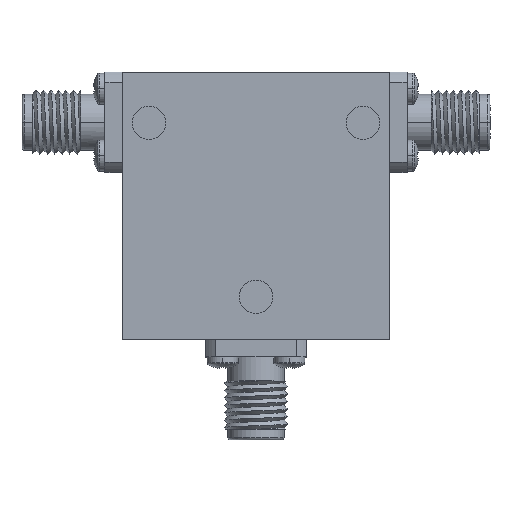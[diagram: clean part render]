
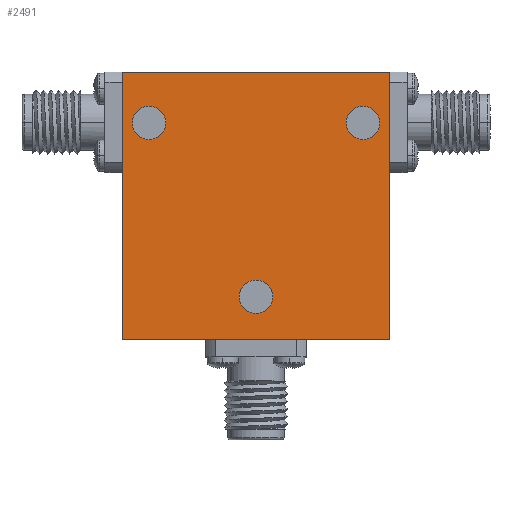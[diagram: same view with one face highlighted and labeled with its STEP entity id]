
A CAD part, top view. The second image highlights one B-rep face of the part: STEP entity #2491.
In plain terms, the highlighted planar face has unit normal (0, 0, 1) as drawn and (0, 0, -1) by its records, which use the part's own axes.
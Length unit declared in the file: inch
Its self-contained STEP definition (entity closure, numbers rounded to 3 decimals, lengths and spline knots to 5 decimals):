
#99 = VECTOR ( 'NONE', #3619, 39.37008 ) ;
#181 = CARTESIAN_POINT ( 'NONE',  ( 0., -0.34, -0.19 ) ) ;
#186 = EDGE_CURVE ( 'NONE', #1411, #1394, #2262, .T. ) ;
#208 = CARTESIAN_POINT ( 'NONE',  ( 0., 0., -0.19 ) ) ;
#249 = DIRECTION ( 'NONE',  ( 1., 0., 0. ) ) ;
#275 = LINE ( 'NONE', #3729, #3497 ) ;
#397 = DIRECTION ( 'NONE',  ( 0., 0., 1. ) ) ;
#425 = VERTEX_POINT ( 'NONE', #699 ) ;
#510 = ORIENTED_EDGE ( 'NONE', *, *, #2033, .T. ) ;
#515 = CIRCLE ( 'NONE', #1465, 0.0625 ) ;
#518 = ORIENTED_EDGE ( 'NONE', *, *, #1784, .F. ) ;
#528 = DIRECTION ( 'NONE',  ( 1., 0., 0. ) ) ;
#562 = LINE ( 'NONE', #1133, #3591 ) ;
#605 = CARTESIAN_POINT ( 'NONE',  ( -0.4625, 0.31, -0.19 ) ) ;
#612 = CARTESIAN_POINT ( 'NONE',  ( -0.4, 0.31, -0.19 ) ) ;
#661 = ORIENTED_EDGE ( 'NONE', *, *, #3164, .F. ) ;
#673 = EDGE_CURVE ( 'NONE', #2832, #3532, #1850, .T. ) ;
#699 = CARTESIAN_POINT ( 'NONE',  ( -0.5, 0.5, -0.19 ) ) ;
#804 = VERTEX_POINT ( 'NONE', #895 ) ;
#895 = CARTESIAN_POINT ( 'NONE',  ( 0.5, 0.5, -0.19 ) ) ;
#990 = VECTOR ( 'NONE', #528, 39.37008 ) ;
#1001 = CARTESIAN_POINT ( 'NONE',  ( 0., -0.34, -0.19 ) ) ;
#1004 = ORIENTED_EDGE ( 'NONE', *, *, #3047, .T. ) ;
#1028 = FACE_BOUND ( 'NONE', #1030, .T. ) ;
#1030 = EDGE_LOOP ( 'NONE', ( #1357, #1568 ) ) ;
#1083 = CARTESIAN_POINT ( 'NONE',  ( -0.4, 0.31, -0.19 ) ) ;
#1084 = EDGE_CURVE ( 'NONE', #3532, #2832, #3172, .T. ) ;
#1096 = PLANE ( 'NONE',  #3083 ) ;
#1116 = LINE ( 'NONE', #1925, #99 ) ;
#1133 = CARTESIAN_POINT ( 'NONE',  ( -0.5, 0.5, -0.19 ) ) ;
#1163 = EDGE_CURVE ( 'NONE', #2708, #804, #1116, .T. ) ;
#1171 = ORIENTED_EDGE ( 'NONE', *, *, #3043, .T. ) ;
#1181 = AXIS2_PLACEMENT_3D ( 'NONE', #181, #2259, #3121 ) ;
#1277 = EDGE_LOOP ( 'NONE', ( #3374, #1004 ) ) ;
#1299 = FACE_BOUND ( 'NONE', #1277, .T. ) ;
#1305 = LINE ( 'NONE', #1714, #990 ) ;
#1357 = ORIENTED_EDGE ( 'NONE', *, *, #1084, .T. ) ;
#1394 = VERTEX_POINT ( 'NONE', #2514 ) ;
#1401 = DIRECTION ( 'NONE',  ( -1., 0., 0. ) ) ;
#1411 = VERTEX_POINT ( 'NONE', #2806 ) ;
#1465 = AXIS2_PLACEMENT_3D ( 'NONE', #612, #1775, #3210 ) ;
#1534 = CARTESIAN_POINT ( 'NONE',  ( 0.3375, 0.31, -0.19 ) ) ;
#1557 = AXIS2_PLACEMENT_3D ( 'NONE', #1001, #397, #3668 ) ;
#1568 = ORIENTED_EDGE ( 'NONE', *, *, #673, .T. ) ;
#1709 = FACE_OUTER_BOUND ( 'NONE', #2951, .T. ) ;
#1714 = CARTESIAN_POINT ( 'NONE',  ( -0.5, -0.5, -0.19 ) ) ;
#1775 = DIRECTION ( 'NONE',  ( 0., 0., 1. ) ) ;
#1784 = EDGE_CURVE ( 'NONE', #2432, #2708, #1305, .T. ) ;
#1829 = DIRECTION ( 'NONE',  ( 1., 0., 0. ) ) ;
#1850 = CIRCLE ( 'NONE', #3088, 0.0625 ) ;
#1925 = CARTESIAN_POINT ( 'NONE',  ( 0.5, 0.5, -0.19 ) ) ;
#1985 = VERTEX_POINT ( 'NONE', #2584 ) ;
#2033 = EDGE_CURVE ( 'NONE', #3329, #1985, #515, .T. ) ;
#2170 = CARTESIAN_POINT ( 'NONE',  ( 0.4, 0.31, -0.19 ) ) ;
#2259 = DIRECTION ( 'NONE',  ( 0., 0., 1. ) ) ;
#2262 = CIRCLE ( 'NONE', #1557, 0.0625 ) ;
#2283 = CARTESIAN_POINT ( 'NONE',  ( 0.4, 0.31, -0.19 ) ) ;
#2393 = AXIS2_PLACEMENT_3D ( 'NONE', #2170, #2725, #1829 ) ;
#2416 = CIRCLE ( 'NONE', #1181, 0.0625 ) ;
#2432 = VERTEX_POINT ( 'NONE', #2773 ) ;
#2472 = ORIENTED_EDGE ( 'NONE', *, *, #1163, .F. ) ;
#2491 = ADVANCED_FACE ( 'NONE', ( #1028, #1299, #3170, #1709 ), #1096, .F. ) ;
#2514 = CARTESIAN_POINT ( 'NONE',  ( -0.0625, -0.34, -0.19 ) ) ;
#2542 = DIRECTION ( 'NONE',  ( 0., 0., 1. ) ) ;
#2584 = CARTESIAN_POINT ( 'NONE',  ( -0.3375, 0.31, -0.19 ) ) ;
#2604 = DIRECTION ( 'NONE',  ( 0., 0., 1. ) ) ;
#2708 = VERTEX_POINT ( 'NONE', #3205 ) ;
#2725 = DIRECTION ( 'NONE',  ( 0., 0., 1. ) ) ;
#2773 = CARTESIAN_POINT ( 'NONE',  ( -0.5, -0.5, -0.19 ) ) ;
#2806 = CARTESIAN_POINT ( 'NONE',  ( 0.0625, -0.34, -0.19 ) ) ;
#2832 = VERTEX_POINT ( 'NONE', #1534 ) ;
#2844 = ORIENTED_EDGE ( 'NONE', *, *, #3020, .F. ) ;
#2857 = DIRECTION ( 'NONE',  ( 0., 0., 1. ) ) ;
#2951 = EDGE_LOOP ( 'NONE', ( #2472, #518, #661, #2844 ) ) ;
#3020 = EDGE_CURVE ( 'NONE', #804, #425, #275, .T. ) ;
#3043 = EDGE_CURVE ( 'NONE', #1985, #3329, #3401, .T. ) ;
#3047 = EDGE_CURVE ( 'NONE', #1394, #1411, #2416, .T. ) ;
#3083 = AXIS2_PLACEMENT_3D ( 'NONE', #208, #2542, #3695 ) ;
#3088 = AXIS2_PLACEMENT_3D ( 'NONE', #2283, #2604, #249 ) ;
#3121 = DIRECTION ( 'NONE',  ( 1., 0., 0. ) ) ;
#3135 = AXIS2_PLACEMENT_3D ( 'NONE', #1083, #2857, #3163 ) ;
#3163 = DIRECTION ( 'NONE',  ( 1., 0., 0. ) ) ;
#3164 = EDGE_CURVE ( 'NONE', #425, #2432, #562, .T. ) ;
#3170 = FACE_BOUND ( 'NONE', #3182, .T. ) ;
#3172 = CIRCLE ( 'NONE', #2393, 0.0625 ) ;
#3182 = EDGE_LOOP ( 'NONE', ( #1171, #510 ) ) ;
#3205 = CARTESIAN_POINT ( 'NONE',  ( 0.5, -0.5, -0.19 ) ) ;
#3210 = DIRECTION ( 'NONE',  ( 1., 0., 0. ) ) ;
#3329 = VERTEX_POINT ( 'NONE', #605 ) ;
#3333 = CARTESIAN_POINT ( 'NONE',  ( 0.4625, 0.31, -0.19 ) ) ;
#3374 = ORIENTED_EDGE ( 'NONE', *, *, #186, .T. ) ;
#3401 = CIRCLE ( 'NONE', #3135, 0.0625 ) ;
#3480 = DIRECTION ( 'NONE',  ( 0., -1., 0. ) ) ;
#3497 = VECTOR ( 'NONE', #1401, 39.37008 ) ;
#3532 = VERTEX_POINT ( 'NONE', #3333 ) ;
#3591 = VECTOR ( 'NONE', #3480, 39.37008 ) ;
#3619 = DIRECTION ( 'NONE',  ( 0., 1., 0. ) ) ;
#3668 = DIRECTION ( 'NONE',  ( 1., 0., 0. ) ) ;
#3695 = DIRECTION ( 'NONE',  ( 1., 0., 0. ) ) ;
#3729 = CARTESIAN_POINT ( 'NONE',  ( -0.5, 0.5, -0.19 ) ) ;
